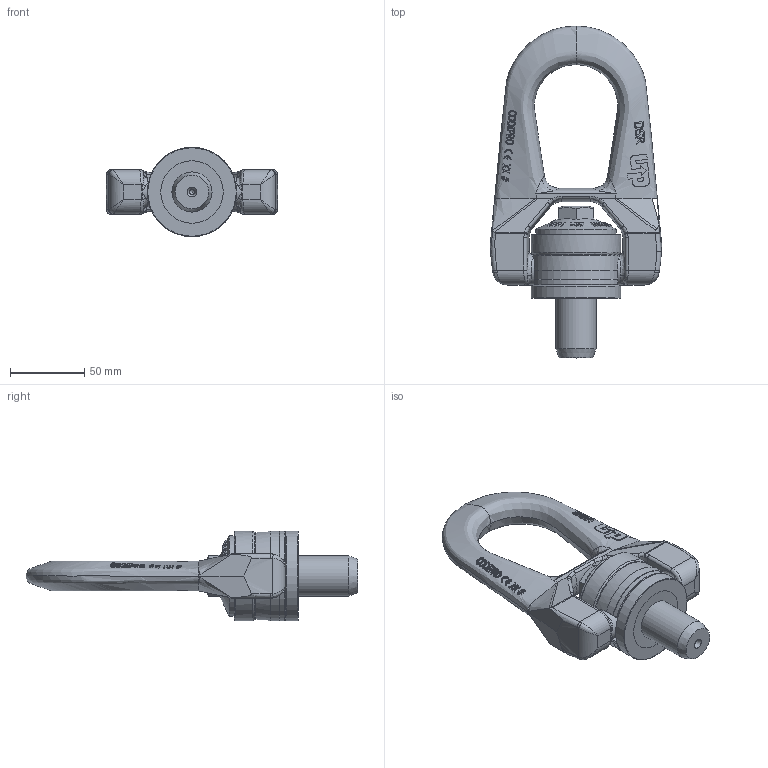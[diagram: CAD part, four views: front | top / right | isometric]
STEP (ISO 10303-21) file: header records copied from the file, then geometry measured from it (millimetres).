
FILE_DESCRIPTION(/* description */ (''),/* implementation_level */ '2;1');
FILE_NAME(/* name */ 'W:\CODIPRO\DOCUMENTS\Plans A NE PAS DIFFUSER !!!\Fichiers STEP\Gamme 2018\Produits GRADUP\DSR UP\DSR M27 UP.stp',/* time_stamp */ '2018-03-07T13:45:33+01:00',/* author */ ('rklenes'),/* organization */ (''),/* preprocessor_version */ 'ST-DEVELOPER v16.5',/* originating_system */ 'Autodesk Inventor 2017',/* authorisation */ '');
FILE_SCHEMA (('AUTOMOTIVE_DESIGN { 1 0 10303 214 3 1 1 }'));
Products named in the file (6): DSR M27 UP; DSR 3; DRB_B3B; DRM_AF3B_UP; DRE_D3M27A; DRA_M27X83_UP
Assembly tree (5 placements, depth 3):
  DSR M27 UP
    DSR 3
      DRB_B3B
      DRM_AF3B_UP
    DRE_D3M27A
    DRA_M27X83_UP
Bounding box: 115 x 223 x 60 mm (x, y, z)
Volume: 340774.5 mm3; surface area: 75852.2 mm2
Topology: 4 solids, 4 shells, 769 faces, 2029 edges, 1304 vertices
Faces by surface type: plane 357, bspline 274, cylinder 76, cone 46, torus 15, sphere 1
Full cylindrical faces by diameter (mm): 3.15 x1, 20 x2, 27 x4, 27.2 x1, 33.6 x2, 34 x2, 46 x1, 54 x1, 60 x2
Entity records: 43725 total; most frequent: CARTESIAN_POINT 26791, ORIENTED_EDGE 3948, DIRECTION 2696, EDGE_CURVE 1974, VERTEX_POINT 1296, AXIS2_PLACEMENT_3D 1002, EDGE_LOOP 858, FACE_OUTER_BOUND 769
